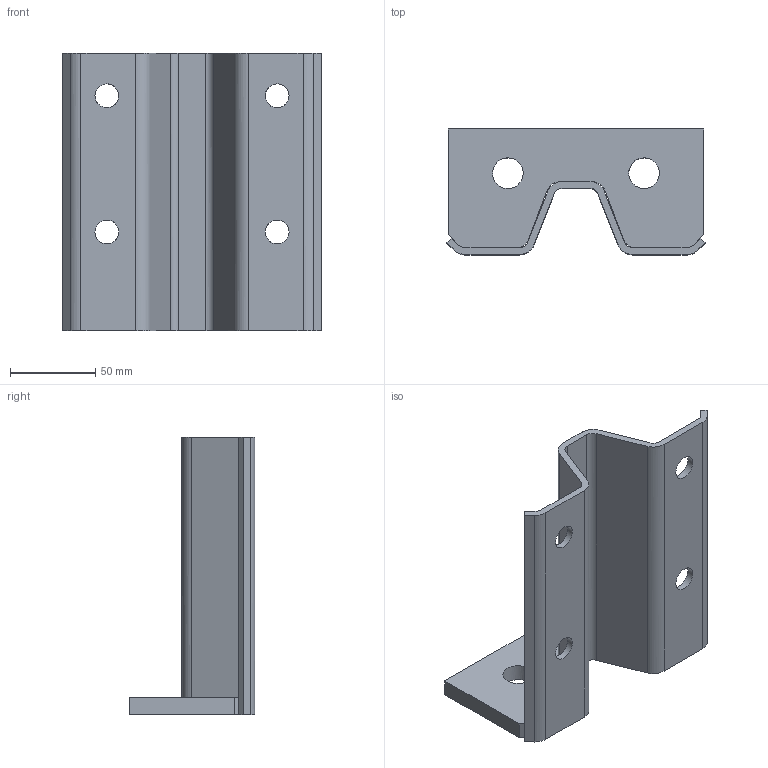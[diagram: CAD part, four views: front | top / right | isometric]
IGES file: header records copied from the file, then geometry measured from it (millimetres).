
Global section: file name: ZB185W80; native system: Autodesk RealDWG; preprocessor: Autodesk Translation Framework DWG producer (atf_dwg_producer); organization: unknown; date: 20230703.112323; units: centimetre
Bounding box: 151.72 x 74 x 163 mm (x, y, z)
Volume: 210812.5 mm3; surface area: 90437.9 mm2
Topology: 2 solids, 2 shells, 54 faces, 158 edges, 108 vertices
Faces by surface type: bspline 54
